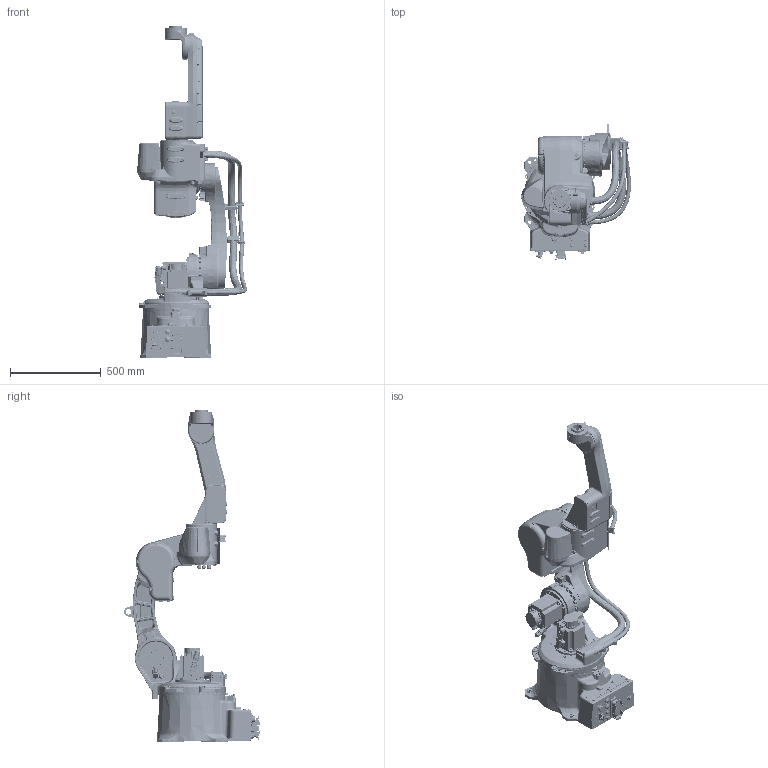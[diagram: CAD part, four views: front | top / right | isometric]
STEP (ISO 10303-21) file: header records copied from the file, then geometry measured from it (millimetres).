
FILE_DESCRIPTION(('CATIA V5 STEP Exchange','CAx-IF Rec.Pracs.--- Composite Materials ---3.4---2017-06-13'),'2;1');
FILE_NAME('D:\モデリング\☆☆☆STEP\BA\BA013N-AC001_220117\RARAS_220117\軽量化_STEP未\Part\BA013N-AC01.stp','2022-03-08T03:46:00+00:00',('none'),('none'),'CATIA Version 5-6 Release 2020 SP4 HF11','CATIA V5 STEP AP203 v2','none');
FILE_SCHEMA(('CONFIG_CONTROL_DESIGN'));
Products named in the file (1): BA013N-AC01
Assembly tree (8 placements, depth 2):
  BA013N-AC01
    #57
    #49131
    #109910
    #158046
    #205886
    #249546
    #264683
    #266723
Bounding box: 603.3 x 748.35 x 1825 mm (x, y, z)
Volume: 91455949.2 mm3; surface area: 4122308.9 mm2
Topology: 18 solids, 18 shells, 6113 faces, 15161 edges, 9314 vertices
Faces by surface type: plane 2115, cylinder 1843, bspline 1211, cone 507, torus 286, sphere 76, extrusion 67, revolution 8
Entity records: 269755 total; most frequent: CARTESIAN_POINT 144376, ORIENTED_EDGE 29762, DIRECTION 17718, EDGE_CURVE 14881, VERTEX_POINT 9314, AXIS2_PLACEMENT_3D 8087, EDGE_LOOP 6758, ADVANCED_FACE 6113
